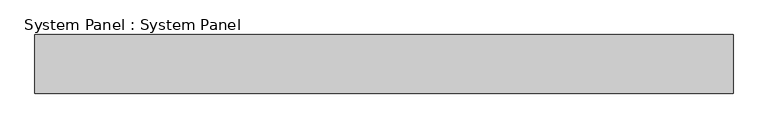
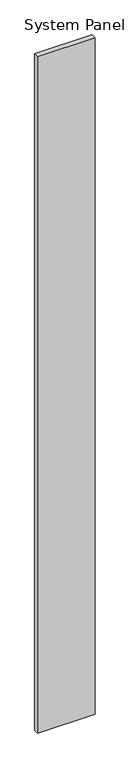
"""IFC4 building model written with IfcOpenShell, lengths in millimetres: plate geometry, System Panel : System Panel."""

import ifcopenshell
import ifcopenshell.guid

model = None  # the IFC model being written
_history = None  # IfcOwnerHistory: only IFC2X3 demands one
_inside = {}  # id of a spatial element -> (the spatial element, [elements in it])
_under = {}  # id of a project, library or spatial element -> (it, [spatial elements below it])
_declared = {}  # id of a project -> (the project, [libraries it declares])
_typed = {}  # id of a type object -> (the type object, [elements of that type])
_made_of = {}  # id of a material, layer set ... -> (it, [elements and type objects made of it])


def new_model(schema):
    """Start an empty IFC model of exactly this schema.

    Asked for "IFC4X3", IfcOpenShell would pick the latest addendum, in which some entities
    have other attributes; the version numbers below select the first issue.
    IFC2X3 requires an IfcOwnerHistory on every rooted entity: one is made here for all.
    """
    global model, _history
    if schema == "IFC4X3":
        model = ifcopenshell.file(schema_version=(4, 3, 0, 0))
    else:
        model = ifcopenshell.file(schema=schema)
    _inside.clear()
    _under.clear()
    _declared.clear()
    _typed.clear()
    _made_of.clear()
    _history = None
    if model.schema == "IFC2X3":
        org = make("IfcOrganization", Name="unknown")
        user = make(
            "IfcPersonAndOrganization",
            ThePerson=make("IfcPerson", FamilyName="unknown"),
            TheOrganization=org,
        )
        app = make(
            "IfcApplication",
            ApplicationDeveloper=org,
            Version="unknown",
            ApplicationFullName="unknown",
            ApplicationIdentifier="unknown",
        )
        _history = make(
            "IfcOwnerHistory",
            OwningUser=user,
            OwningApplication=app,
            ChangeAction="ADDED",
            CreationDate=0,
        )
    return model


def make(cls, **values):
    """One entity of the class cls with the attributes given. An attribute that is None is left unset."""
    return model.create_entity(
        cls, **{name: value for name, value in values.items() if value is not None}
    )


def rooted(cls, **values):
    """An entity with a GlobalId (a new one), such as an element, a storey or a relation."""
    return make(cls, GlobalId=ifcopenshell.guid.new(), OwnerHistory=_history, **values)


def si_unit(unit_type, name, prefix=None):
    """IfcSIUnit, for example si_unit("LENGTHUNIT", "METRE", prefix="MILLI")."""
    return make("IfcSIUnit", UnitType=unit_type, Prefix=prefix, Name=name)


def assignment(units):
    """IfcUnitAssignment: the units of a project."""
    return None if units is None else make("IfcUnitAssignment", Units=units)


def point(xyz):
    """IfcCartesianPoint."""
    return None if xyz is None else make("IfcCartesianPoint", Coordinates=xyz)


def direction(xyz):
    """IfcDirection."""
    return None if xyz is None else make("IfcDirection", DirectionRatios=xyz)


def frame(location, z_axis=None, x_axis=None):
    """IfcAxis2Placement3D, a coordinate frame: its origin and axes. An axis left out is left unset."""
    return make(
        "IfcAxis2Placement3D",
        Location=point(location),
        Axis=direction(z_axis),
        RefDirection=direction(x_axis),
    )


def origin():
    """The frame at (0, 0, 0) with its axes left unset."""
    return frame((0.0, 0.0, 0.0))


def origin_with_axes():
    """The frame at (0, 0, 0) with the z axis (0, 0, 1) and the x axis (1, 0, 0) written out."""
    return frame((0.0, 0.0, 0.0), z_axis=(0.0, 0.0, 1.0), x_axis=(1.0, 0.0, 0.0))


def place(relative_to, where):
    """IfcLocalPlacement: puts the frame where relative to a parent placement (None: the world)."""
    return make(
        "IfcLocalPlacement", PlacementRelTo=relative_to, RelativePlacement=where
    )


def context(
    kind, dimensions, precision=None, world=None, true_north=None, identifier=None
):
    """IfcGeometricRepresentationContext, for example the 3D "Model" context."""
    return make(
        "IfcGeometricRepresentationContext",
        ContextIdentifier=identifier,
        ContextType=kind,
        CoordinateSpaceDimension=dimensions,
        Precision=precision,
        WorldCoordinateSystem=world,
        TrueNorth=true_north,
    )


def project(units=None, contexts=None):
    """IfcProject with its units and contexts."""
    return rooted(
        "IfcProject",
        Name="project",
        RepresentationContexts=contexts,
        UnitsInContext=assignment(units),
    )


def spatial(cls, under=None, at=None, **own):
    """A site, building, storey or space (cls), placed at a placement, below another one or the project."""
    s = rooted(cls, ObjectPlacement=at, **own)
    if under is not None:
        _under.setdefault(under.id(), (under, []))[1].append(s)
    return s


def polyline(points):
    """IfcPolyline through the points."""
    return make("IfcPolyline", Points=[point(p) for p in points])


def outline(outer, holes=None, kind="AREA"):
    """IfcArbitraryClosedProfileDef: a profile drawn as a closed curve; with holes, ...WithVoids."""
    if holes is None:
        return make("IfcArbitraryClosedProfileDef", ProfileType=kind, OuterCurve=outer)
    return make(
        "IfcArbitraryProfileDefWithVoids",
        ProfileType=kind,
        OuterCurve=outer,
        InnerCurves=holes,
    )


def extrude(swept, where, along, depth):
    """IfcExtrudedAreaSolid: the profile swept, set in the frame where, extruded along a direction by depth."""
    return make(
        "IfcExtrudedAreaSolid",
        SweptArea=swept,
        Position=where,
        ExtrudedDirection=direction(along),
        Depth=depth,
    )


def shape(context_of_items, identifier, shape_type, items):
    """IfcShapeRepresentation: the items that make up one representation, for example the "Body"."""
    return make(
        "IfcShapeRepresentation",
        ContextOfItems=context_of_items,
        RepresentationIdentifier=identifier,
        RepresentationType=shape_type,
        Items=items,
    )


def source(mapping_origin, context_of_items, identifier, shape_type, items):
    """IfcRepresentationMap: a shape defined once, which mapped items show again and again."""
    return make(
        "IfcRepresentationMap",
        MappingOrigin=mapping_origin,
        MappedRepresentation=shape(context_of_items, identifier, shape_type, items),
    )


def transform(
    local_origin,
    x_axis=None,
    y_axis=None,
    z_axis=None,
    scale=None,
    scale2=None,
    scale3=None,
    uniform=True,
):
    """IfcCartesianTransformationOperator3D, or its non-uniform kind. x_axis, y_axis, z_axis: its Axis1, 2, 3."""
    if uniform:
        return make(
            "IfcCartesianTransformationOperator3D",
            Axis1=direction(x_axis),
            Axis2=direction(y_axis),
            LocalOrigin=point(local_origin),
            Scale=scale,
            Axis3=direction(z_axis),
        )
    return make(
        "IfcCartesianTransformationOperator3DnonUniform",
        Axis1=direction(x_axis),
        Axis2=direction(y_axis),
        LocalOrigin=point(local_origin),
        Scale=scale,
        Axis3=direction(z_axis),
        Scale2=scale2,
        Scale3=scale3,
    )


def mapped(mapping_source, mapping_target):
    """IfcMappedItem: shows the shape of a source again, moved by a transform."""
    return make(
        "IfcMappedItem", MappingSource=mapping_source, MappingTarget=mapping_target
    )


def made_of(thing, what):
    """Note that an element or type object is made of a material, layer set ...; save() writes the relation."""
    if what is not None:
        _made_of.setdefault(what.id(), (what, []))[1].append(thing)
    return thing


def element(
    cls,
    number,
    at=None,
    inside=None,
    cuts=None,
    type_object=None,
    material=None,
    context=None,
    identifier="Body",
    shape_type=None,
    held_by="IfcProductDefinitionShape",
    body=None,
    shapes=None,
    **own,
):
    """One element of the class cls, such as IfcWall. Its Tag is "e" and its number.

    at: its placement. inside: the storey or other place that contains it. cuts: it is an
    opening in that element (IfcRelVoidsElement). A single representation is given by context,
    identifier, shape_type and body (its items); several are given by shapes. held_by: the class
    of the entity that holds the representations. save() writes the other relations.
    """
    e = rooted(cls, Tag="e%d" % number, ObjectPlacement=at, **own)
    if body is not None:
        shapes = [shape(context, identifier, shape_type, body)]
    if shapes is not None:
        e.Representation = make(held_by, Representations=shapes)
    if inside is not None:
        _inside.setdefault(inside.id(), (inside, []))[1].append(e)
    if cuts is not None:
        rooted(
            "IfcRelVoidsElement", RelatingBuildingElement=cuts, RelatedOpeningElement=e
        )
    if type_object is not None:
        _typed.setdefault(type_object.id(), (type_object, []))[1].append(e)
    return made_of(e, material)


def aggregate(whole, parts):
    """IfcRelAggregates: a whole, such as a stair, and the parts it consists of."""
    return rooted("IfcRelAggregates", RelatingObject=whole, RelatedObjects=parts)


def save(model, path):
    """Write the relations noted so far, then the file.

    IfcRelAggregates (storeys below a building ...), IfcRelContainedInSpatialStructure (elements
    in a storey), IfcRelDefinesByType, IfcRelAssociatesMaterial and IfcRelDeclares: one each for
    every whole, place, type object, material and project.
    """
    for whole, parts in _under.values():
        aggregate(whole, parts)
    for where, things in _inside.values():
        rooted(
            "IfcRelContainedInSpatialStructure",
            RelatedElements=things,
            RelatingStructure=where,
        )
    for kind, things in _typed.values():
        rooted("IfcRelDefinesByType", RelatedObjects=things, RelatingType=kind)
    for what, things in _made_of.values():
        rooted("IfcRelAssociatesMaterial", RelatedObjects=things, RelatingMaterial=what)
    for by, libraries in _declared.values():
        rooted("IfcRelDeclares", RelatingContext=by, RelatedDefinitions=libraries)
    model.write(path)


def system_panel_system_panel_03cabf1d(model_context):
    return source(origin(), model_context, "Body", "SweptSolid", [
        extrude(outline(polyline([(601.0700969, -50.8), (-601.0700969, -50.8), (-601.0700969, 50.8), (601.0700969, 50.8), (601.0700969, -50.8)])), origin_with_axes(), (0.0, 0.0, 1.0), 14935.2),
    ])


if __name__ == "__main__":
    model = new_model("IFC4")
    model_context = context("Model", 3, world=origin())
    ifc_project = project(units=[si_unit("LENGTHUNIT", "METRE", prefix="MILLI")], contexts=[model_context])
    site = spatial("IfcSite", under=ifc_project)
    building = spatial("IfcBuilding", under=site)
    placement = place(None, origin())
    system_panel_system_panel_shape = system_panel_system_panel_03cabf1d(model_context)
    element("IfcPlate", 1, ObjectType="System Panel : System Panel", at=placement, inside=building, context=model_context, shape_type="MappedRepresentation", body=[
        mapped(system_panel_system_panel_shape, transform((0.0, 0.0, 0.0), x_axis=(1.0, 0.0, 0.0), y_axis=(0.0, 1.0, 0.0), z_axis=(0.0, 0.0, 1.0))),
    ])
    save(model, "model.ifc")
